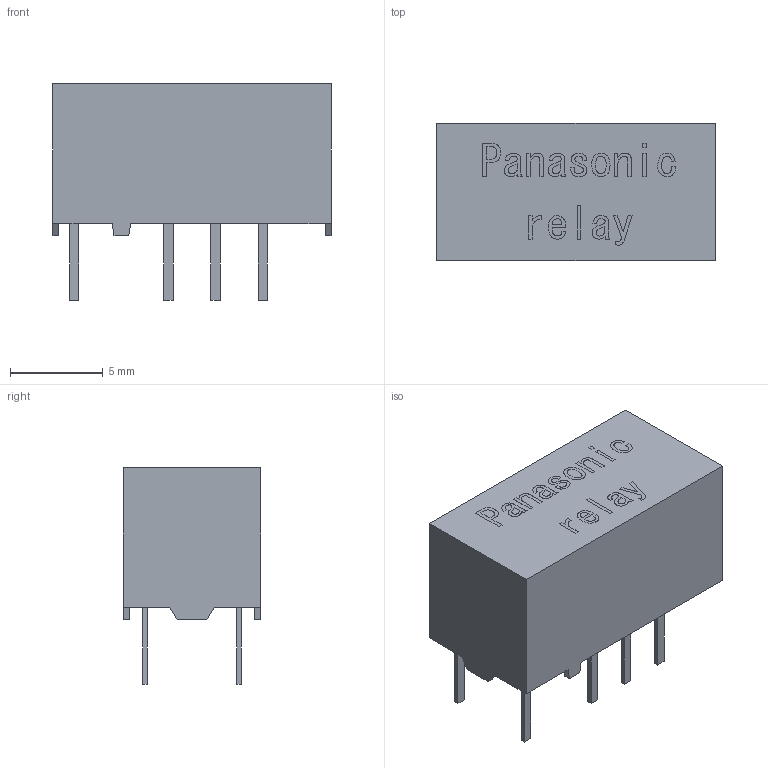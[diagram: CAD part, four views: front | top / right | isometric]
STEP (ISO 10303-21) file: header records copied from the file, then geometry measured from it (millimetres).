
FILE_DESCRIPTION (( 'STEP AP214' ), '1' );
FILE_NAME ('atx203.step', '2021-03-03T06:25:44', ( '' ), ( 'Panasonic Corporation 2021' ), '', '', '' );
FILE_SCHEMA (( 'AUTOMOTIVE_DESIGN' ));
Length unit declared in the file: millimetre
Products named in the file (1): atx203
Bounding box: 15 x 7.4 x 11.7 mm (x, y, z)
Volume: 843.4 mm3; surface area: 618.9 mm2
Topology: 1 solids, 1 shells, 323 faces, 876 edges, 584 vertices
Faces by surface type: bspline 171, plane 152
Entity records: 14966 total; most frequent: CARTESIAN_POINT 7963, ORIENTED_EDGE 1752, EDGE_CURVE 876, DIRECTION 840, VERTEX_POINT 584, VECTOR 534, LINE 534, EDGE_LOOP 352
